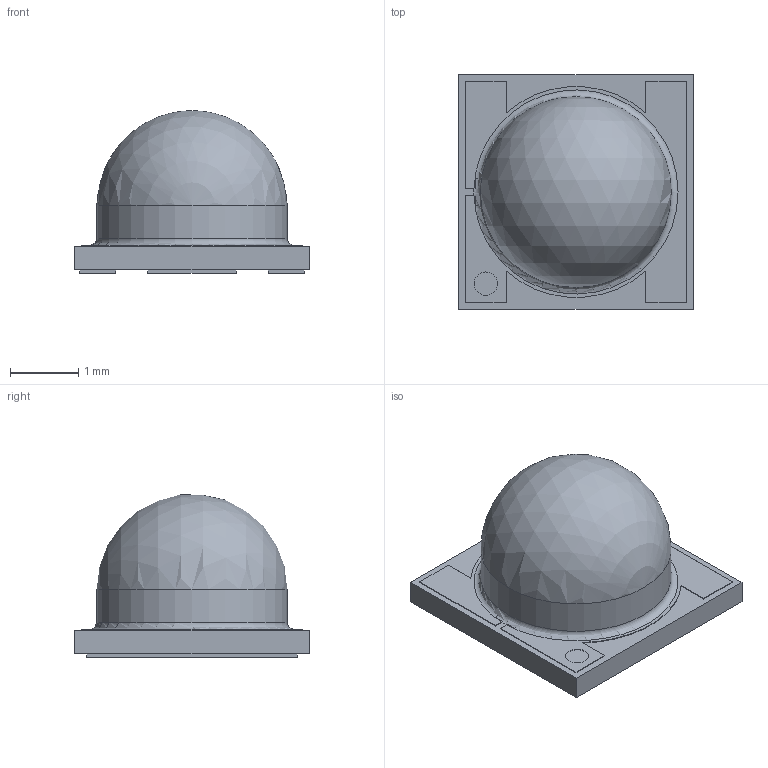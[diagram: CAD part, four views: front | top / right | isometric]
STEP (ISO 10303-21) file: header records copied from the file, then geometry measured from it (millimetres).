
FILE_DESCRIPTION( ( 'Unknown' ), '1' );
FILE_NAME( 'C:/Users/86133/Downloads/3D_PCB1_2022-09-15/M3535O1IRS13G06-850NM.stp', 'Unknown', ( 'Unknown' ), ( 'Unknown' ), 'PSStep 15.0.49', 'Unknown', ' ' );
FILE_SCHEMA( ( 'AUTOMOTIVE_DESIGN { 1 0 10303 214 1 1 1 1 }' ) );
Length unit declared in the file: millimetre
Products named in the file (1): SOLID
Bounding box: 3.45 x 3.45 x 2.39 mm (x, y, z)
Volume: 14 mm3; surface area: 41.1 mm2
Topology: 1 solids, 1 shells, 52 faces, 137 edges, 90 vertices
Faces by surface type: plane 46, cylinder 4, torus 1, sphere 1
Full cylindrical faces by diameter (mm): 0.343 x1, 2.8 x1
Entity records: 2803 total; most frequent: CARTESIAN_POINT 267, ORIENTED_EDGE 256, DIRECTION 244, PRESENTATION_STYLE_ASSIGNMENT 233, COLOUR_RGB 233, STYLED_ITEM 181, CURVE_STYLE 181, DRAUGHTING_PRE_DEFINED_CURVE_FONT 181
